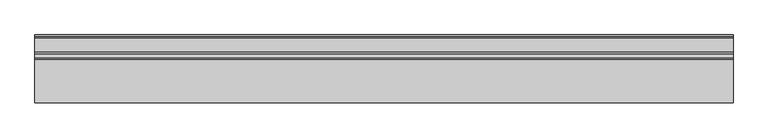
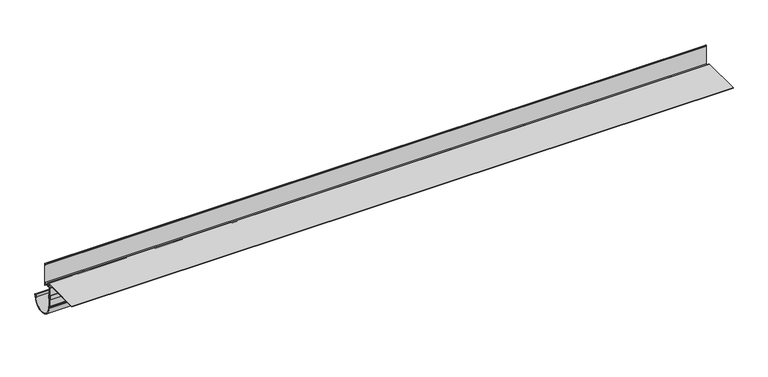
"""IFC4 building model written with IfcOpenShell, lengths in millimetres: proxy geometry, W35 Profil okapowy prosty : Renoplast."""

from ifc_helpers import new_model, si_unit, point, frame, frame_2d, origin, place, context, project, spatial, polyline, circle_curve, trimmed, segment, composite_curve, outline, extrude, source, transform, mapped, element, save
from ifc_brep_helpers import plane_surface, cylinder_surface, revolved_surface, advanced_brep


def generic_models_6ff2464a(model_context):
    return source(origin(), model_context, "Body", "SolidModel", [
        extrude(outline(composite_curve([segment(polyline([(-16.2735812, -80.1470817), (-17.3, -80.1470817), (-17.3, -71.8647019), (-16.2735812, -71.8647019), (-16.2735812, -56.0), (-15.0771553, -56.0), (-15.0771553, -73.8652393), (-13.5916529, -73.8652393), (-13.5916529, -71.8647019), (-12.5916529, -71.8647019), (-12.5916529, -80.1470817), (-13.5916529, -80.1470817), (-13.5916529, -78.1458102), (-15.0771553, -78.1458102), (-15.0771553, -94.6477207), (-11.9837886, -97.7410874)]), True, "CONTINUOUS"), segment(trimmed(circle_curve(frame_2d((11.7, -100.0901637)), 23.8), [point((-11.9837886, -97.7410874))], [point((35.0266303, -104.8133319))], True, "CARTESIAN"), True, "CONTINUOUS"), segment(trimmed(circle_curve(frame_2d((34.4544934, -102.0693536)), 2.8029909), [point((35.0266303, -104.8133319))], [point((33.8823565, -99.3253752))], False, "CARTESIAN"), True, "CONTINUOUS"), segment(trimmed(circle_curve(frame_2d((34.4544934, -102.0693536)), 2.8029909), [point((33.8823565, -99.3253752))], [point((36.69821, -100.3893256))], False, "CARTESIAN"), True, "CONTINUOUS"), segment(trimmed(circle_curve(frame_2d((11.7, -100.0901637)), 25.0), [point((36.69821, -100.3893256))], [point((-13.2966871, -100.4971445))], False, "CARTESIAN"), True, "CONTINUOUS"), segment(polyline([(-13.2966871, -100.4971445), (-14.8456235, -100.0821082), (-15.2042537, -98.7436822), (-13.2279836, -99.2732221), (-13.2279836, -98.1939486), (-16.2735812, -95.1483511), (-16.2735812, -80.1470817)]), True, "CONTINUOUS")], self_intersect=False)), frame((0.0, 0.0, 0.0), z_axis=(1.0, 0.0, 0.0), x_axis=(0.0, 1.0, 0.0)), (0.0, 0.0, 1.0), 1359.6792),
        advanced_brep(
        [(0.0, 0.0010677, -12.3), (0.0, 2.5010677, -15.1358001), (0.0, 2.5010677, -60.5974817), (0.0, 1.0010677, -59.3464967), (0.0, 1.0010677, -55.1212515), (0.0, -8.5231229, -55.1212515), (0.0, -8.5231229, -56.6478406), (0.0, -10.049712, -55.1212515), (0.0, -13.5989323, -55.1212515), (0.0, -13.5989323, -88.5), (0.0, -15.0989323, -88.5), (0.0, -15.0989323, -48.8260527), (0.0, -20.0989323, -48.8260527), (0.0, -20.0989323, -51.8230238), (0.0, -21.5989323, -51.8230238), (0.0, -21.5989323, -48.8260527), (0.0, -95.0989323, -48.8260527), (0.0, -95.0989323, -47.3), (0.0, -11.0612599, -47.3), (0.0, -8.4435317, -50.1427162), (0.0, -9.9454403, -50.1551438), (0.0, -11.3457599, -48.8260527), (0.0, -13.1366439, -48.8260527), (0.0, -13.1366439, -53.6212515), (0.0, 1.0010677, -53.6212515), (0.0, 1.0010677, -15.1358001), (0.0, 0.0010677, -14.1358001), (1359.6792, 0.0010677, -12.3), (1359.6792, 0.0010677, -14.1358001), (1359.6792, 1.0010677, -15.1358001), (1359.6792, 1.0010677, -53.6212515), (1359.6792, -13.1366439, -53.6212515), (1359.6792, -13.1366439, -48.8260527), (1359.6792, -11.3457599, -48.8260527), (1359.6792, -9.9454403, -50.1551438), (1359.6792, -8.4435317, -50.1551438), (1359.6792, -11.0612599, -47.3), (1359.6792, -95.0989323, -47.3), (1359.6792, -95.0989323, -48.8260527), (1359.6792, -21.5989323, -48.8260527), (1359.6792, -21.5989323, -51.8230238), (1359.6792, -20.0989323, -51.8230238), (1359.6792, -20.0989323, -48.8260527), (1359.6792, -15.0989323, -48.8260527), (1359.6792, -15.0989323, -88.5), (1359.6792, -13.5989323, -88.5), (1359.6792, -13.5989323, -55.1212515), (1359.6792, -10.049712, -55.1212515), (1359.6792, -8.5231229, -56.6478406), (1359.6792, -8.5231229, -55.1212515), (1359.6792, 1.0010677, -55.1212515), (1359.6792, 1.0010677, -59.3464967), (1359.6792, 2.5010677, -60.5974817), (1359.6792, 2.5010677, -15.1358001)],
        [
            (0, 1, circle_curve(frame((0.0, -0.4087938, -15.1812097), z_axis=(-1.0, 0.0, 0.0), x_axis=(0.0, 1.0, 0.0)), 2.9102158)),
            (1, 2),
            (2, 3),
            (3, 4),
            (4, 5),
            (5, 6),
            (6, 7),
            (7, 8),
            (8, 9),
            (9, 10),
            (10, 11),
            (11, 12),
            (12, 13),
            (13, 14),
            (14, 15),
            (15, 16),
            (16, 17),
            (17, 18),
            (18, 19, circle_curve(frame((0.0, -11.0612599, -49.9266316), z_axis=(-1.0, 0.0, 0.0), x_axis=(0.0, -1.0, 0.0)), 2.6266316)),
            (19, 20),
            (20, 21, circle_curve(frame((0.0, -11.3457599, -50.2282809), z_axis=(1.0, 0.0, 0.0), x_axis=(0.0, -1.0, 0.0)), 1.4022282)),
            (21, 22),
            (22, 23),
            (23, 24),
            (24, 25),
            (25, 26, circle_curve(frame((0.0, 0.0010677, -15.1358001), z_axis=(1.0, 0.0, 0.0), x_axis=(0.0, 1.0, 0.0)), 1.0)),
            (26, 0),
            (27, 28),
            (28, 29, circle_curve(frame((1359.6792, 0.0010677, -15.1358001), z_axis=(-1.0, 0.0, 0.0), x_axis=(0.0, 1.0, 0.0)), 1.0)),
            (29, 30),
            (30, 31),
            (31, 32),
            (32, 33),
            (33, 34, circle_curve(frame((1359.6792, -11.3457599, -50.2282809), z_axis=(-1.0, 0.0, 0.0), x_axis=(0.0, -1.0, 0.0)), 1.4022282)),
            (34, 35),
            (35, 36, circle_curve(frame((1359.6792, -11.0612599, -49.9266316), z_axis=(1.0, 0.0, 0.0), x_axis=(0.0, -1.0, 0.0)), 2.6266316)),
            (36, 37),
            (37, 38),
            (38, 39),
            (39, 40),
            (40, 41),
            (41, 42),
            (42, 43),
            (43, 44),
            (44, 45),
            (45, 46),
            (46, 47),
            (47, 48),
            (48, 49),
            (49, 50),
            (50, 51),
            (51, 52),
            (52, 53),
            (53, 27, circle_curve(frame((1359.6792, -0.4087938, -15.1812097), z_axis=(1.0, 0.0, 0.0), x_axis=(0.0, 1.0, 0.0)), 2.9102158)),
            (26, 28),
            (27, 0),
            (25, 29),
            (24, 30),
            (23, 31),
            (22, 32),
            (21, 33),
            (20, 34),
            (19, 35),
            (18, 36),
            (17, 37),
            (16, 38),
            (15, 39),
            (14, 40),
            (13, 41),
            (12, 42),
            (11, 43),
            (10, 44),
            (9, 45),
            (8, 46),
            (7, 47),
            (6, 48),
            (5, 49),
            (4, 50),
            (3, 51),
            (2, 52),
            (1, 53),
        ],
        [
            plane_surface(frame((0.0, 0.0, 0.0), z_axis=(-1.0, 0.0, 0.0), x_axis=(0.0, 0.0, 1.0))),
            plane_surface(frame((1359.6792, 0.0, 0.0), z_axis=(1.0, 0.0, 0.0), x_axis=(0.0, 0.0, 1.0))),
            plane_surface(frame((0.0, 0.0010677, -12.3), z_axis=(0.0, -1.0, 0.0), x_axis=(1.0, 0.0, 0.0))),
            revolved_surface(polyline([(1359.6792, 1.0010677, -15.1358001), (0.0, 1.0010677, -15.1358001)]), (0.0, 0.0010677, -15.1358001), (1.0, 0.0, 0.0)),
            plane_surface(frame((0.0, 1.0010677, -15.1358001), z_axis=(0.0, -1.0, 0.0), x_axis=(1.0, 0.0, 0.0))),
            plane_surface(frame((0.0, -7.7310535, -53.6212515), z_axis=(0.0, 0.0, 1.0), x_axis=(1.0, 0.0, 0.0))),
            plane_surface(frame((0.0, -13.1366439, -53.6212515), z_axis=(0.0, 1.0, 0.0), x_axis=(1.0, 0.0, 0.0))),
            plane_surface(frame((0.0, -13.1366439, -48.8260527), z_axis=(0.0, 0.0, -1.0), x_axis=(1.0, 0.0, 0.0))),
            revolved_surface(polyline([(1359.6792, -12.747988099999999, -50.2282809), (0.0, -12.747988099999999, -50.2282809)]), (0.0, -11.3457599, -50.2282809), (1.0, 0.0, 0.0)),
            plane_surface(frame((0.0, -9.9454403, -50.1551438), z_axis=(0.0, 0.0, -1.0), x_axis=(1.0, 0.0, 0.0))),
            cylinder_surface(frame((0.0, -11.0612599, -49.9266316), z_axis=(-1.0, 0.0, 0.0), x_axis=(0.0, -1.0, 0.0)), 2.6266316),
            plane_surface(frame((0.0, -11.0612599, -47.3), z_axis=(0.0, 0.0, 1.0), x_axis=(1.0, 0.0, 0.0))),
            plane_surface(frame((0.0, -95.0989323, -47.3), z_axis=(0.0, -1.0, 0.0), x_axis=(1.0, 0.0, 0.0))),
            plane_surface(frame((0.0, -95.0989323, -48.8260527), z_axis=(0.0, 0.0, -1.0), x_axis=(1.0, 0.0, 0.0))),
            plane_surface(frame((0.0, -21.5989323, -48.8260527), z_axis=(0.0, -1.0, 0.0), x_axis=(1.0, 0.0, 0.0))),
            plane_surface(frame((0.0, -21.5989323, -51.8230238), z_axis=(0.0, 0.0, -1.0), x_axis=(1.0, 0.0, 0.0))),
            plane_surface(frame((0.0, -20.0989323, -51.8230238), z_axis=(0.0, 1.0, 0.0), x_axis=(1.0, 0.0, 0.0))),
            plane_surface(frame((0.0, -20.0989323, -48.8260527), z_axis=(0.0, 0.0, -1.0), x_axis=(1.0, 0.0, 0.0))),
            plane_surface(frame((0.0, -15.0989323, -48.8260527), z_axis=(0.0, -1.0, 0.0), x_axis=(1.0, 0.0, 0.0))),
            plane_surface(frame((0.0, -15.0989323, -88.5), z_axis=(0.0, 0.0, -1.0), x_axis=(1.0, 0.0, 0.0))),
            plane_surface(frame((0.0, -13.5989323, -88.5), z_axis=(0.0, 1.0, 0.0), x_axis=(1.0, 0.0, 0.0))),
            plane_surface(frame((0.0, -13.5989323, -55.1212515), z_axis=(0.0, 0.0, -1.0), x_axis=(1.0, 0.0, 0.0))),
            plane_surface(frame((0.0, -10.049712, -55.1212515), z_axis=(0.0, -0.7071067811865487, -0.7071067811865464), x_axis=(1.0, 0.0, 0.0))),
            plane_surface(frame((0.0, -8.5231229, -56.6478406), z_axis=(0.0, 1.0, 0.0), x_axis=(1.0, 0.0, 0.0))),
            plane_surface(frame((0.0, 0.0, -55.1212515), z_axis=(0.0, 0.0, -1.0), x_axis=(1.0, 0.0, 0.0))),
            plane_surface(frame((0.0, 1.0010677, -55.1212515), z_axis=(0.0, -1.0, 0.0), x_axis=(1.0, 0.0, 0.0))),
            plane_surface(frame((0.0, 1.0010677, -59.3464967), z_axis=(0.0, -0.6404819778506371, -0.767973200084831), x_axis=(1.0, 0.0, 0.0))),
            plane_surface(frame((0.0, 2.5010677, -60.5974817), z_axis=(0.0, 1.0, 0.0), x_axis=(1.0, 0.0, 0.0))),
            cylinder_surface(frame((0.0, -0.4087938, -15.1812097), z_axis=(-1.0, 0.0, 0.0), x_axis=(0.0, 1.0, 0.0)), 2.9102158),
        ],
        [
            (0, [[1, 2, 3, 4, 5, 6, 7, 8, 9, 10, 11, 12, 13, 14, 15, 16, 17, 18, 19, 20, 21, 22, 23, 24, 25, 26, 27]]),
            (1, [[28, 29, 30, 31, 32, 33, 34, 35, 36, 37, 38, 39, 40, 41, 42, 43, 44, 45, 46, 47, 48, 49, 50, 51, 52, 53, 54]]),
            (2, [[55, -28, 56, -27]]),
            (3, [[57, -29, -55, -26]]),
            (4, [[58, -30, -57, -25]]),
            (5, [[-24, 59, -31, -58]]),
            (6, [[60, -32, -59, -23]]),
            (7, [[61, -33, -60, -22]]),
            (8, [[62, -34, -61, -21]]),
            (9, [[63, -35, -62, -20]]),
            (10, [[64, -36, -63, -19]]),
            (11, [[65, -37, -64, -18]]),
            (12, [[66, -38, -65, -17]]),
            (13, [[67, -39, -66, -16]]),
            (14, [[68, -40, -67, -15]]),
            (15, [[69, -41, -68, -14]]),
            (16, [[70, -42, -69, -13]]),
            (17, [[71, -43, -70, -12]]),
            (18, [[72, -44, -71, -11]]),
            (19, [[73, -45, -72, -10]]),
            (20, [[74, -46, -73, -9]]),
            (21, [[75, -47, -74, -8]]),
            (22, [[76, -48, -75, -7]]),
            (23, [[77, -49, -76, -6]]),
            (24, [[-5, 78, -50, -77]]),
            (25, [[79, -51, -78, -4]]),
            (26, [[80, -52, -79, -3]]),
            (27, [[81, -53, -80, -2]]),
            (28, [[-56, -54, -81, -1]]),
        ],
    ),
    ])


if __name__ == "__main__":
    model = new_model("IFC4")
    model_context = context("Model", 3, world=origin())
    ifc_project = project(units=[si_unit("LENGTHUNIT", "METRE", prefix="MILLI")], contexts=[model_context])
    site = spatial("IfcSite", under=ifc_project)
    building = spatial("IfcBuilding", under=site)
    placement = place(None, origin())
    generic_models_shape = generic_models_6ff2464a(model_context)
    element("IfcBuildingElementProxy", 1, Name="W35 Profil okapowy prosty : Renoplast", ObjectType="W35 Profil okapowy prosty : Renoplast", at=placement, inside=building, context=model_context, shape_type="MappedRepresentation", body=[
        mapped(generic_models_shape, transform((0.0, 0.0, 0.0), x_axis=(1.0, 0.0, 0.0), y_axis=(0.0, 1.0, 0.0), z_axis=(0.0, 0.0, 1.0))),
    ])
    save(model, "model.ifc")
